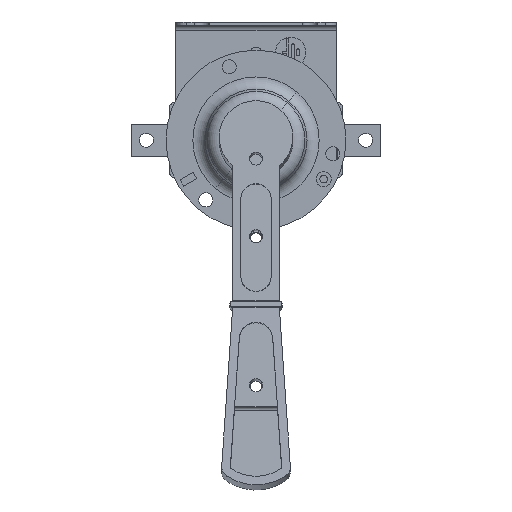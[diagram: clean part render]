
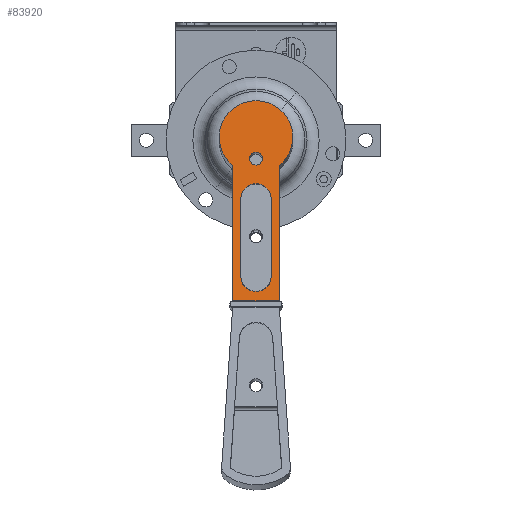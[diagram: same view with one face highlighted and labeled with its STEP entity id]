
A CAD part, left-side view. The second image highlights one B-rep face of the part: STEP entity #83920.
In plain terms, the highlighted planar face has unit normal (-0.992, 0, 0.128) as drawn and (0, -1, 0) by its records, which use the part's own axes.
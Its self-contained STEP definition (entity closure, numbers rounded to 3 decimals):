
#321 = VERTEX_POINT ( 'NONE', #38139 ) ;
#768 = VERTEX_POINT ( 'NONE', #77171 ) ;
#773 = VERTEX_POINT ( 'NONE', #107340 ) ;
#1807 = LINE ( 'NONE', #127266, #28504 ) ;
#1977 = DIRECTION ( 'NONE',  ( 0., 0., -1. ) ) ;
#2277 = CARTESIAN_POINT ( 'NONE',  ( 45.166, -4.79, -7. ) ) ;
#2987 = CARTESIAN_POINT ( 'NONE',  ( 45.166, -4.79, 0. ) ) ;
#3208 = VERTEX_POINT ( 'NONE', #62716 ) ;
#3881 = AXIS2_PLACEMENT_3D ( 'NONE', #15433, #55584, #66542 ) ;
#5215 = EDGE_CURVE ( 'NONE', #29188, #321, #120911, .T. ) ;
#6379 = FACE_BOUND ( 'NONE', #10779, .T. ) ;
#6395 = CARTESIAN_POINT ( 'NONE',  ( -9.534, -4.79, 3. ) ) ;
#7081 = VERTEX_POINT ( 'NONE', #84191 ) ;
#8485 = CIRCLE ( 'NONE', #27747, 17. ) ;
#9540 = CARTESIAN_POINT ( 'NONE',  ( -9.534, -4.79, 0. ) ) ;
#9604 = AXIS2_PLACEMENT_3D ( 'NONE', #9540, #88284, #48888 ) ;
#10779 = EDGE_LOOP ( 'NONE', ( #44509, #59225 ) ) ;
#12681 = FACE_BOUND ( 'NONE', #73375, .T. ) ;
#12867 = ORIENTED_EDGE ( 'NONE', *, *, #16775, .T. ) ;
#14327 = FACE_OUTER_BOUND ( 'NONE', #121887, .T. ) ;
#14575 = EDGE_CURVE ( 'NONE', #17917, #773, #28399, .T. ) ;
#15433 = CARTESIAN_POINT ( 'NONE',  ( 9.166, -4.79, 0. ) ) ;
#16775 = EDGE_CURVE ( 'NONE', #768, #58301, #83001, .T. ) ;
#17917 = VERTEX_POINT ( 'NONE', #38016 ) ;
#18972 = DIRECTION ( 'NONE',  ( 0., -1., 0. ) ) ;
#19023 = CARTESIAN_POINT ( 'NONE',  ( 56.666, -4.79, -10.75 ) ) ;
#20237 = EDGE_CURVE ( 'NONE', #96926, #99523, #58207, .T. ) ;
#21766 = VECTOR ( 'NONE', #21920, 1000. ) ;
#21920 = DIRECTION ( 'NONE',  ( -1., 0., 0. ) ) ;
#24092 = VECTOR ( 'NONE', #24869, 1000. ) ;
#24767 = CARTESIAN_POINT ( 'NONE',  ( -19.465, -4.79, 17. ) ) ;
#24869 = DIRECTION ( 'NONE',  ( 0., 0., -1. ) ) ;
#27101 = PLANE ( 'NONE',  #47333 ) ;
#27747 = AXIS2_PLACEMENT_3D ( 'NONE', #41857, #31360, #1977 ) ;
#28145 = CARTESIAN_POINT ( 'NONE',  ( -9.534, -4.79, 0. ) ) ;
#28399 = CIRCLE ( 'NONE', #3881, 7. ) ;
#28504 = VECTOR ( 'NONE', #86190, 1000. ) ;
#29032 = DIRECTION ( 'NONE',  ( 0., 0., -1. ) ) ;
#29188 = VERTEX_POINT ( 'NONE', #24767 ) ;
#29565 = LINE ( 'NONE', #112381, #21766 ) ;
#31360 = DIRECTION ( 'NONE',  ( 0., -1., 0. ) ) ;
#35284 = ORIENTED_EDGE ( 'NONE', *, *, #14575, .F. ) ;
#38016 = CARTESIAN_POINT ( 'NONE',  ( 9.166, -4.79, 7. ) ) ;
#38139 = CARTESIAN_POINT ( 'NONE',  ( -19.465, -4.79, -17. ) ) ;
#41857 = CARTESIAN_POINT ( 'NONE',  ( -19.465, -4.79, 0. ) ) ;
#42856 = DIRECTION ( 'NONE',  ( 0., 0., -1. ) ) ;
#43706 = DIRECTION ( 'NONE',  ( 0., -1., 0. ) ) ;
#44509 = ORIENTED_EDGE ( 'NONE', *, *, #83922, .F. ) ;
#44516 = LINE ( 'NONE', #51597, #69427 ) ;
#46591 = CARTESIAN_POINT ( 'NONE',  ( -9.534, -4.79, -3. ) ) ;
#47126 = AXIS2_PLACEMENT_3D ( 'NONE', #88931, #79686, #29032 ) ;
#47333 = AXIS2_PLACEMENT_3D ( 'NONE', #56774, #79445, #49315 ) ;
#48178 = VERTEX_POINT ( 'NONE', #2277 ) ;
#48888 = DIRECTION ( 'NONE',  ( 0., 0., -1. ) ) ;
#49315 = DIRECTION ( 'NONE',  ( 0., 0., 1. ) ) ;
#50492 = ORIENTED_EDGE ( 'NONE', *, *, #5215, .T. ) ;
#51259 = DIRECTION ( 'NONE',  ( 0., -1., 0. ) ) ;
#51597 = CARTESIAN_POINT ( 'NONE',  ( 45.166, -4.79, 7. ) ) ;
#52053 = EDGE_CURVE ( 'NONE', #7081, #95480, #29565, .T. ) ;
#52128 = ORIENTED_EDGE ( 'NONE', *, *, #80870, .F. ) ;
#55584 = DIRECTION ( 'NONE',  ( 0., -1., 0. ) ) ;
#56272 = CARTESIAN_POINT ( 'NONE',  ( 56.666, -4.79, 17. ) ) ;
#56774 = CARTESIAN_POINT ( 'NONE',  ( -35.334, -4.79, 17. ) ) ;
#56942 = EDGE_CURVE ( 'NONE', #773, #48178, #1807, .T. ) ;
#58207 = CIRCLE ( 'NONE', #115149, 3. ) ;
#58301 = VERTEX_POINT ( 'NONE', #19023 ) ;
#59225 = ORIENTED_EDGE ( 'NONE', *, *, #20237, .F. ) ;
#62716 = CARTESIAN_POINT ( 'NONE',  ( 45.166, -4.79, 7. ) ) ;
#65753 = ORIENTED_EDGE ( 'NONE', *, *, #127476, .T. ) ;
#66542 = DIRECTION ( 'NONE',  ( 0., 0., -1. ) ) ;
#69427 = VECTOR ( 'NONE', #121986, 1000. ) ;
#69883 = ORIENTED_EDGE ( 'NONE', *, *, #117130, .T. ) ;
#72700 = CIRCLE ( 'NONE', #124668, 7. ) ;
#73375 = EDGE_LOOP ( 'NONE', ( #96175, #35284, #128656, #91440 ) ) ;
#77171 = CARTESIAN_POINT ( 'NONE',  ( -6.295, -4.79, -10.75 ) ) ;
#79445 = DIRECTION ( 'NONE',  ( 0., 1., 0. ) ) ;
#79686 = DIRECTION ( 'NONE',  ( 0., -1., 0. ) ) ;
#80870 = EDGE_CURVE ( 'NONE', #7081, #58301, #103850, .T. ) ;
#81407 = DIRECTION ( 'NONE',  ( 0., 0., -1. ) ) ;
#81831 = ORIENTED_EDGE ( 'NONE', *, *, #52053, .T. ) ;
#83001 = LINE ( 'NONE', #104154, #126792 ) ;
#83920 = ADVANCED_FACE ( 'NONE', ( #6379, #14327, #12681 ), #27101, .F. ) ;
#83922 = EDGE_CURVE ( 'NONE', #99523, #96926, #117576, .T. ) ;
#84191 = CARTESIAN_POINT ( 'NONE',  ( 56.666, -4.79, 10.75 ) ) ;
#84413 = CARTESIAN_POINT ( 'NONE',  ( -6.295, -4.79, 10.75 ) ) ;
#86190 = DIRECTION ( 'NONE',  ( 1., 0., 0. ) ) ;
#88062 = DIRECTION ( 'NONE',  ( 0., 0., -1. ) ) ;
#88284 = DIRECTION ( 'NONE',  ( 0., -1., 0. ) ) ;
#88931 = CARTESIAN_POINT ( 'NONE',  ( -19.465, -4.79, 0. ) ) ;
#90869 = EDGE_CURVE ( 'NONE', #48178, #3208, #72700, .T. ) ;
#91440 = ORIENTED_EDGE ( 'NONE', *, *, #90869, .F. ) ;
#94963 = DIRECTION ( 'NONE',  ( 1., 0., 0. ) ) ;
#95480 = VERTEX_POINT ( 'NONE', #84413 ) ;
#96175 = ORIENTED_EDGE ( 'NONE', *, *, #56942, .F. ) ;
#96926 = VERTEX_POINT ( 'NONE', #6395 ) ;
#99523 = VERTEX_POINT ( 'NONE', #46591 ) ;
#103850 = LINE ( 'NONE', #56272, #24092 ) ;
#103865 = EDGE_CURVE ( 'NONE', #3208, #17917, #44516, .T. ) ;
#104154 = CARTESIAN_POINT ( 'NONE',  ( -35.334, -4.79, -10.75 ) ) ;
#105617 = AXIS2_PLACEMENT_3D ( 'NONE', #111157, #51259, #81407 ) ;
#107340 = CARTESIAN_POINT ( 'NONE',  ( 9.166, -4.79, -7. ) ) ;
#111157 = CARTESIAN_POINT ( 'NONE',  ( -19.465, -4.79, 0. ) ) ;
#112381 = CARTESIAN_POINT ( 'NONE',  ( -35.334, -4.79, 10.75 ) ) ;
#115149 = AXIS2_PLACEMENT_3D ( 'NONE', #28145, #18972, #88062 ) ;
#117130 = EDGE_CURVE ( 'NONE', #321, #768, #128574, .T. ) ;
#117576 = CIRCLE ( 'NONE', #9604, 3. ) ;
#120911 = CIRCLE ( 'NONE', #105617, 17. ) ;
#121887 = EDGE_LOOP ( 'NONE', ( #65753, #50492, #69883, #12867, #52128, #81831 ) ) ;
#121986 = DIRECTION ( 'NONE',  ( -1., 0., 0. ) ) ;
#124668 = AXIS2_PLACEMENT_3D ( 'NONE', #2987, #43706, #42856 ) ;
#126792 = VECTOR ( 'NONE', #94963, 1000. ) ;
#127266 = CARTESIAN_POINT ( 'NONE',  ( 9.166, -4.79, -7. ) ) ;
#127476 = EDGE_CURVE ( 'NONE', #95480, #29188, #8485, .T. ) ;
#128574 = CIRCLE ( 'NONE', #47126, 17. ) ;
#128656 = ORIENTED_EDGE ( 'NONE', *, *, #103865, .F. ) ;
